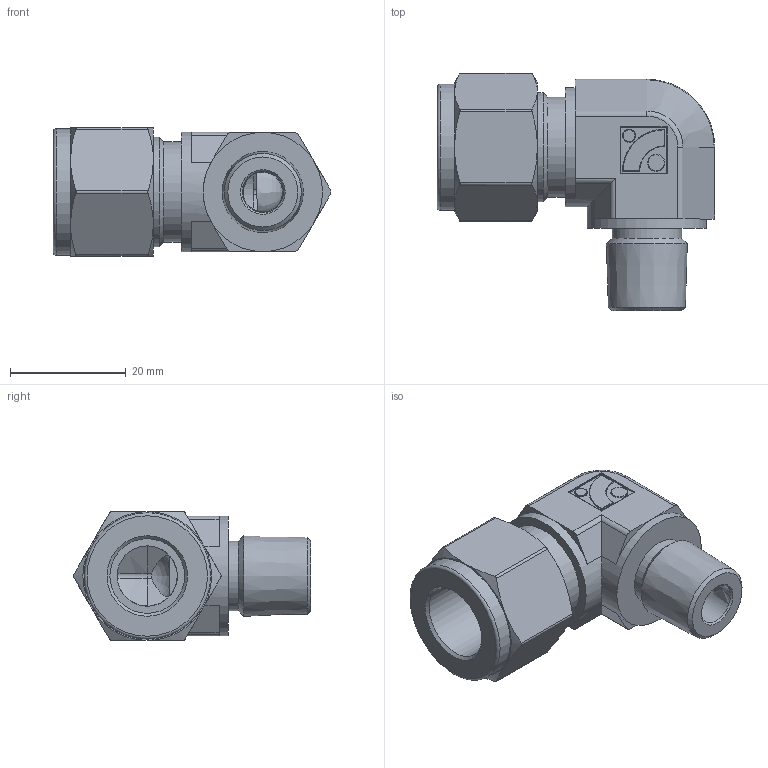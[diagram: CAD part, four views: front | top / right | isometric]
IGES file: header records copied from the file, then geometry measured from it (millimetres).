
Global section: file name: No Iges File Name specified; native system: Autodesk Inventor 2012; preprocessor: AutoDesk Inventor Iges Exporter R2012; author: 硅己绕,,1; organization: 1; date: 20150703.114139; units: millimetre
Bounding box: 47.94 x 40.95 x 22.22 mm (x, y, z)
Volume: 15472.3 mm3; surface area: 6866.1 mm2
Topology: 1 solids, 1 shells, 129 faces, 299 edges, 178 vertices
Faces by surface type: plane 43, cylinder 35, revolution 21, cone 18, torus 8, sphere 4
Full cylindrical faces by diameter (mm): 2.16 x1, 2.88 x1, 12 x1, 17.3 x1, 18.9 x1, 20.6 x2, 21.8 x1
